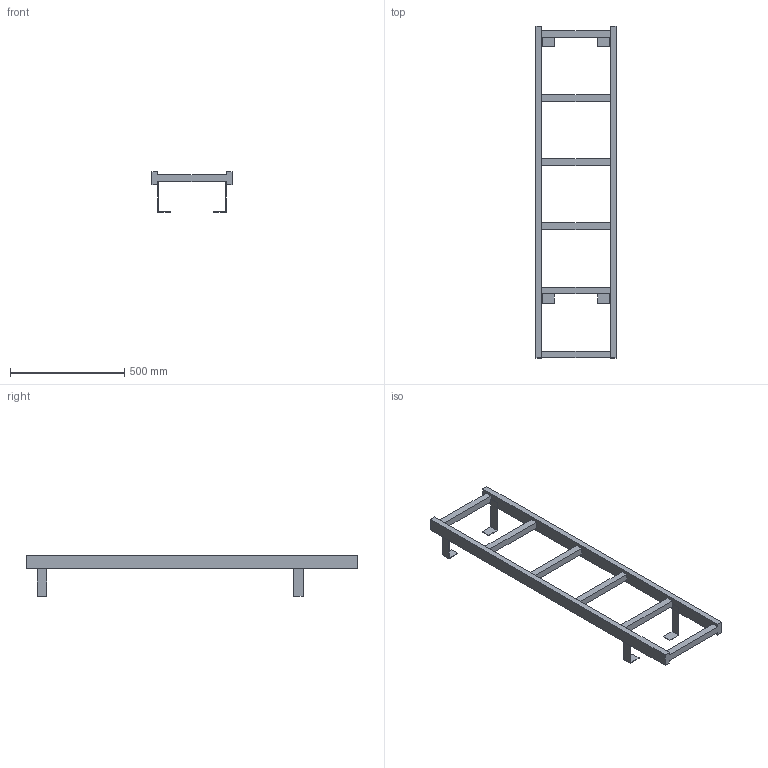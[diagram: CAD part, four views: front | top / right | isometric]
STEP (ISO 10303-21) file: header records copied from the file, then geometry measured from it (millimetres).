
FILE_DESCRIPTION((''),'2;1');
FILE_NAME('017_000109','2017-06-12T',('set'),('HUBER SE'),'PRO/ENGINEER BY PARAMETRIC TECHNOLOGY CORPORATION, 2015280','PRO/ENGINEER BY PARAMETRIC TECHNOLOGY CORPORATION, 2015280','');
FILE_SCHEMA(('CONFIG_CONTROL_DESIGN'));
Length unit declared in the file: millimetre
Products named in the file (1): 017_000109
Bounding box: 350 x 1450 x 178.5 mm (x, y, z)
Volume: 5817460 mm3; surface area: 745988 mm2
Topology: 1 solids, 1 shells, 66 faces, 293 edges, 225 vertices
Faces by surface type: plane 66
Entity records: 2826 total; most frequent: CARTESIAN_POINT 631, DIRECTION 392, ORIENTED_EDGE 384, VECTOR 246, LINE 246, EDGE_CURVE 192, VERTEX_POINT 124, COMPOSITE_CURVE_SEGMENT 101
